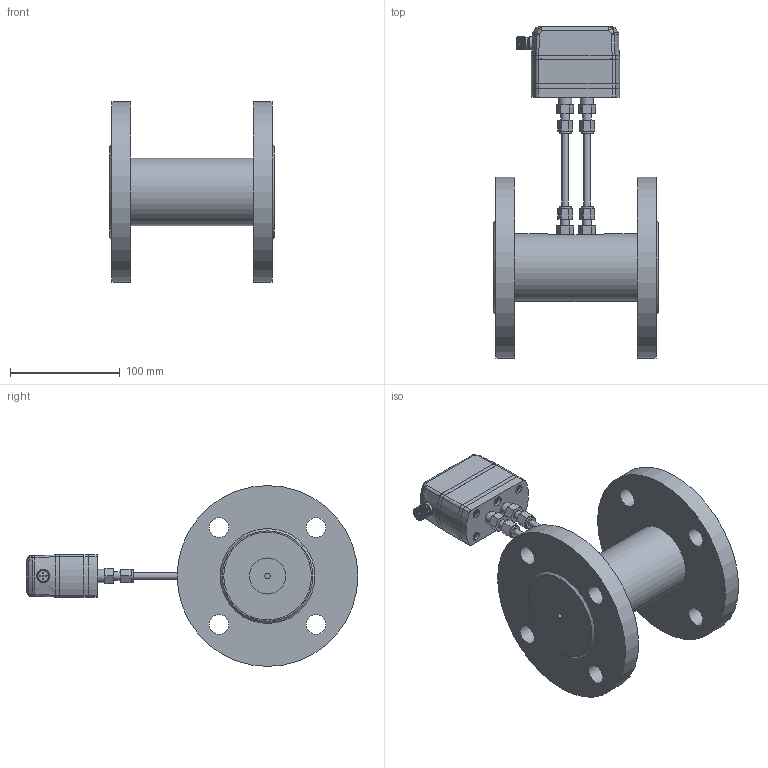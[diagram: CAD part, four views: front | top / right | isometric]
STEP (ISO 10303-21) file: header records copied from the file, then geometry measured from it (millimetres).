
FILE_DESCRIPTION( (''), '2;1');
FILE_NAME( 'QEKH_DN50_flange_capillary.step', '2025-04-29T16:07:56+08:00', (''), (''), '', '', '');
FILE_SCHEMA (('AUTOMOTIVE_DESIGN { 1 0 10303 214 3 1 1 1 }'));
Length unit declared in the file: millimetre
Products named in the file (1): QEKH DN50_flange_capillary
Bounding box: 150 x 302.9 x 165 mm (x, y, z)
Volume: 1422305.4 mm3; surface area: 238393.4 mm2
Topology: 32 solids, 35 shells, 1606 faces, 3947 edges, 2534 vertices
Faces by surface type: plane 810, cylinder 304, extrusion 239, cone 144, torus 52, bspline 48, sphere 9
Full cylindrical faces by diameter (mm): 1 x10, 2.05 x4, 2.6 x4, 2.7 x5, 2.874 x4, 3 x4, 3.1 x1, 3.3 x8, 3.5 x7, 3.838 x6, 4.2 x2, 4.5 x12, 5 x3, 5.5 x10, 6 x6, 7 x6, 8 x8, 9 x2, 9.8 x2, 10.8 x1, 11 x4, 11.5 x2, 11.992 x2, 12 x12, 14 x2, 14.5 x2, 17 x2, 18 x8, 19.1 x6, 25 x1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
Entity records: 52719 total; most frequent: CARTESIAN_POINT 16649, ORIENTED_EDGE 7204, DIRECTION 6625, EDGE_CURVE 3602, VERTEX_POINT 2446, VECTOR 2219, AXIS2_PLACEMENT_3D 2203, EDGE_LOOP 2052
